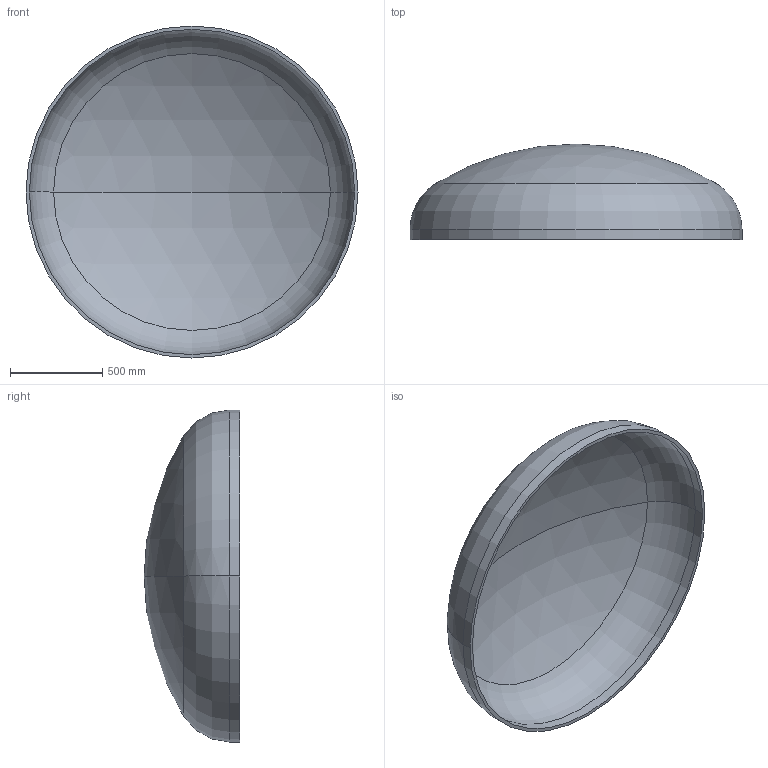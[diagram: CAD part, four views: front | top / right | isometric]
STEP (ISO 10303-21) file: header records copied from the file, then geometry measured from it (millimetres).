
FILE_DESCRIPTION (( 'STEP AP203' ), '1' );
FILE_NAME ('DIN 28013 Korbbogenform_-_Boden DIN 28013 - 1800 x 55 - I - s=18.step', '2016-07-01T12:20:09', ( '' ), ( '' ), 'SwSTEP 2.0', 'SolidWorks 2013', '' );
FILE_SCHEMA (( 'CONFIG_CONTROL_DESIGN' ));
Length unit declared in the file: millimetre
Products named in the file (1): DIN 28013 Korbbogenform_-_Boden DIN 28013 - 1800 x 55 - I - s=18
Bounding box: 1800 x 518.63 x 1800 mm (x, y, z)
Volume: 68049952.4 mm3; surface area: 7662551.3 mm2
Topology: 1 solids, 1 shells, 13 faces, 24 edges, 14 vertices
Faces by surface type: torus 4, cylinder 4, sphere 4, plane 1
Entity records: 407 total; most frequent: DIRECTION 72, CARTESIAN_POINT 52, ORIENTED_EDGE 48, AXIS2_PLACEMENT_3D 34, EDGE_CURVE 24, CIRCLE 20, VERTEX_POINT 14, EDGE_LOOP 14
